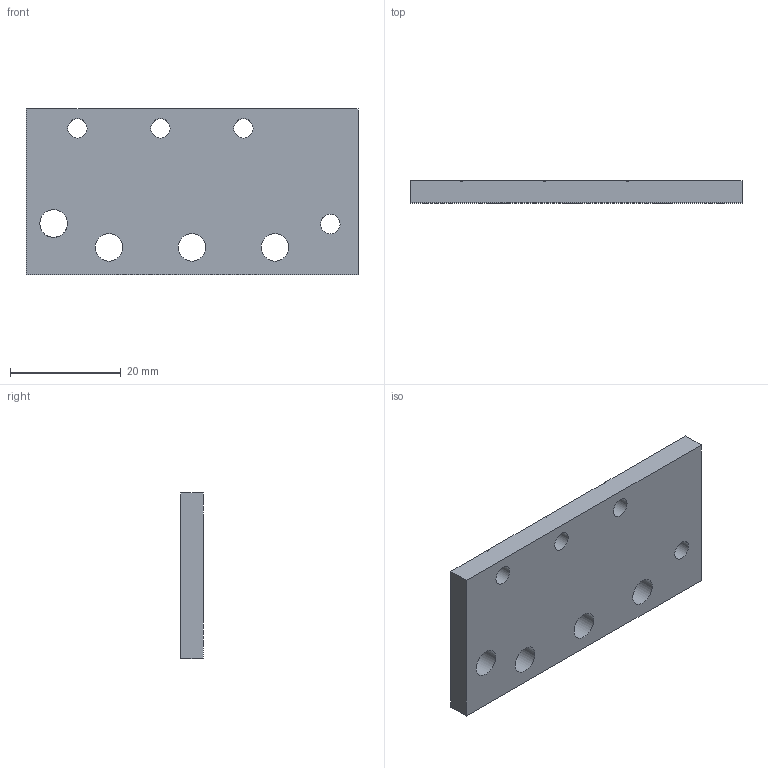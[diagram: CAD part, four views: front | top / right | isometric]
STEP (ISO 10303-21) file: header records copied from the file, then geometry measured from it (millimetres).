
FILE_DESCRIPTION(/* description */ (''),/* implementation_level */ '2;1');
FILE_NAME(/* name */ '//file.canterbury.ac.nz/user/J/jme174/Home/Documents/1) Reports, Presentations etc/1) Publications/Transistor valves 2019/Supplementary information/198 triggered release v13.step',/* time_stamp */ '2020-01-14T15:05:52+13:00',/* author */ (''),/* organization */ (''),/* preprocessor_version */ 'ST-DEVELOPER v18',/* originating_system */ 'Autodesk Translation Framework v8.12.0.6',/* authorisation */ '');
FILE_SCHEMA (('AUTOMOTIVE_DESIGN { 1 0 10303 214 3 1 1 }'));
Length unit declared in the file: millimetre
Products named in the file (1): 198 triggered release
Bounding box: 60 x 4 x 30 mm (x, y, z)
Volume: 6715.5 mm3; surface area: 4682.7 mm2
Topology: 1 solids, 1 shells, 442 faces, 1324 edges, 882 vertices
Faces by surface type: plane 302, cylinder 140
Full cylindrical faces by diameter (mm): 3.5 x4, 5 x4
Entity records: 14950 total; most frequent: CARTESIAN_POINT 2649, ORIENTED_EDGE 2648, DIRECTION 2516, EDGE_CURVE 1324, LINE 1018, VECTOR 1018, VERTEX_POINT 882, AXIS2_PLACEMENT_3D 749
